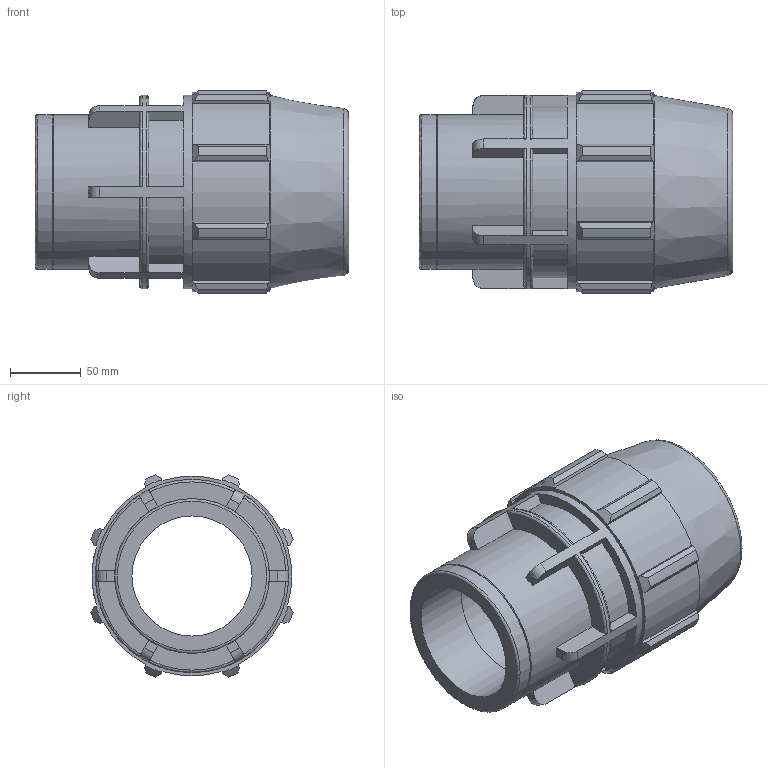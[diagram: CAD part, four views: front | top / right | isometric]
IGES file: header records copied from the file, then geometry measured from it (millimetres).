
Global section: file name: 870300090030_180300090030_840306090030.ipt; native system: Autodesk Inventor 2015; preprocessor: unknown; author: KIM; date: 20180325.201158; units: millimetre
Bounding box: 222 x 143.02 x 143.02 mm (x, y, z)
Volume: 1378881.4 mm3; surface area: 183215.7 mm2
Topology: 1 solids, 1 shells, 146 faces, 408 edges, 273 vertices
Faces by surface type: plane 85, cylinder 25, revolution 24, cone 12
Full cylindrical faces by diameter (mm): 109.44 x2, 136.8 x1
